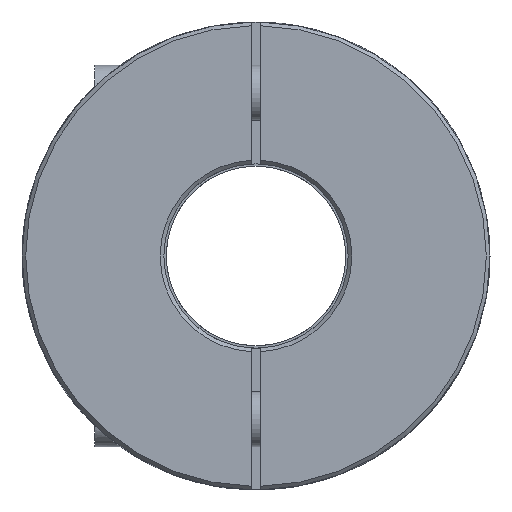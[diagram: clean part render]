
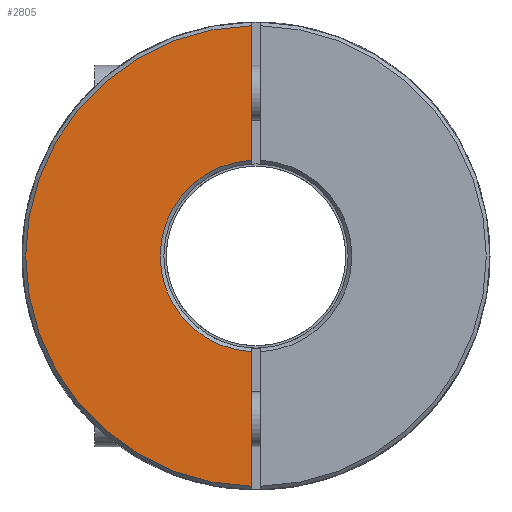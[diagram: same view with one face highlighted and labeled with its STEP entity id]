
A CAD part, front view. The second image highlights one B-rep face of the part: STEP entity #2805.
In plain terms, the highlighted planar face has unit normal (0, -1, 0).
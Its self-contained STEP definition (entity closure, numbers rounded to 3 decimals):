
#1=DIRECTION('',(0.,0.,-1.));
#2=VECTOR('',#1,14.607);
#3=CARTESIAN_POINT('',(-0.5,-27.,24.995));
#4=LINE('',#3,#2);
#5=DIRECTION('',(0.,0.,-1.));
#6=VECTOR('',#5,14.607);
#7=CARTESIAN_POINT('',(-0.5,-27.,-10.388));
#8=LINE('',#7,#6);
#1953=CARTESIAN_POINT('',(0.,-27.,0.));
#1954=DIRECTION('',(0.,1.,0.));
#1955=DIRECTION('',(-0.048,0.,-0.999));
#1956=AXIS2_PLACEMENT_3D('',#1953,#1954,#1955);
#1989=CARTESIAN_POINT('',(0.,-27.,0.));
#1990=DIRECTION('',(0.,-1.,0.));
#1991=DIRECTION('',(-0.02,0.,1.));
#1992=AXIS2_PLACEMENT_3D('',#1989,#1990,#1991);
#2557=CARTESIAN_POINT('',(-0.5,-27.,24.995));
#2558=CARTESIAN_POINT('',(-0.5,-27.,10.388));
#2559=VERTEX_POINT('',#2557);
#2560=VERTEX_POINT('',#2558);
#2561=CARTESIAN_POINT('',(-0.5,-27.,-10.388));
#2562=CARTESIAN_POINT('',(-0.5,-27.,-24.995));
#2563=VERTEX_POINT('',#2561);
#2564=VERTEX_POINT('',#2562);
#2790=CARTESIAN_POINT('',(0.,-27.,0.));
#2791=DIRECTION('',(0.,1.,0.));
#2792=DIRECTION('',(1.,0.,0.));
#2793=AXIS2_PLACEMENT_3D('',#2790,#2791,#2792);
#2794=PLANE('',#2793);
#2796=ORIENTED_EDGE('',*,*,#2795,.T.);
#2798=ORIENTED_EDGE('',*,*,#2797,.F.);
#2800=ORIENTED_EDGE('',*,*,#2799,.T.);
#2802=ORIENTED_EDGE('',*,*,#2801,.F.);
#2803=EDGE_LOOP('',(#2796,#2798,#2800,#2802));
#2804=FACE_OUTER_BOUND('',#2803,.F.);
#2805=ADVANCED_FACE('',(#2804),#2794,.F.);
#1957=CIRCLE('',#1956,10.4);
#1993=CIRCLE('',#1992,25.);
#2795=EDGE_CURVE('',#2559,#2560,#4,.T.);
#2797=EDGE_CURVE('',#2563,#2560,#1957,.T.);
#2799=EDGE_CURVE('',#2563,#2564,#8,.T.);
#2801=EDGE_CURVE('',#2559,#2564,#1993,.T.);
